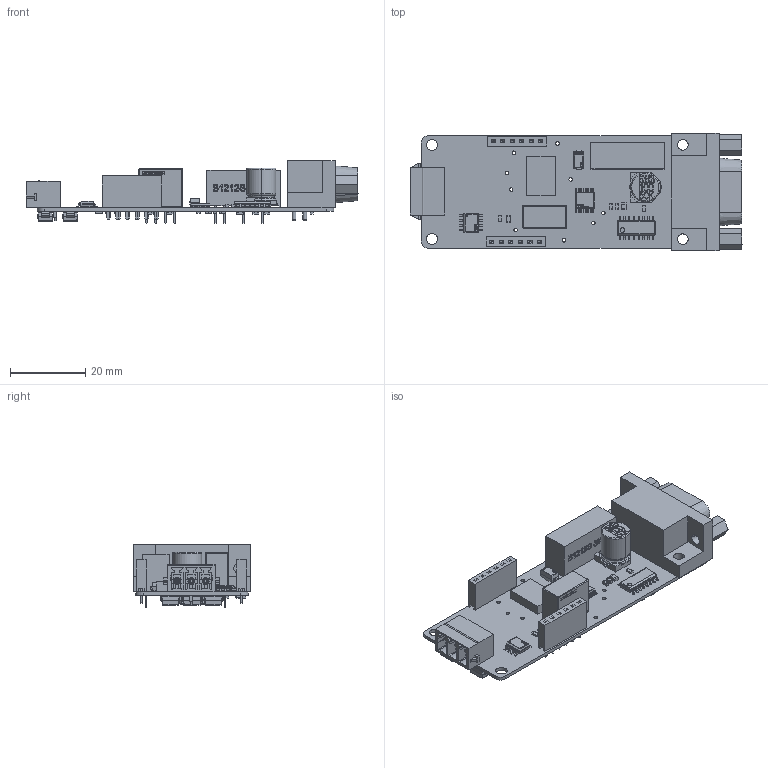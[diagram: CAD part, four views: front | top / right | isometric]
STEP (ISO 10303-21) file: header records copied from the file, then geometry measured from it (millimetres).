
FILE_DESCRIPTION(('Open CASCADE Model'),'2;1');
FILE_NAME('Open CASCADE Shape Model','2025-12-08T13:11:18',('Author'),( 'Open CASCADE'),'Open CASCADE STEP processor 7.5','Open CASCADE 7.5' ,'Unknown');
FILE_SCHEMA(('AUTOMOTIVE_DESIGN { 1 0 10303 214 1 1 1 1 }'));
Length unit declared in the file: millimetre
Products named in the file (136): Open CASCADE STEP translator 7.5 1; Open CASCADE STEP translator 7.5 2; Open CASCADE STEP translator 7.5 3; Open CASCADE STEP translator 7.5 4; Open CASCADE STEP translator 7.5 5; Open CASCADE STEP translator 7.5 6; Open CASCADE STEP translator 7.5 7; Open CASCADE STEP translator 7.5 8; Open CASCADE STEP translator 7.5 9; Open CASCADE STEP translator 7.5 10; Open CASCADE STEP translator 7.5 11; Open CASCADE STEP translator 7.5 12; Open CASCADE STEP translator 7.5 13; Open CASCADE STEP translator 7.5 14; Open CASCADE STEP translator 7.5 15; Open CASCADE STEP translator 7.5 16; Open CASCADE STEP translator 7.5 17; Open CASCADE STEP translator 7.5 18; Open CASCADE STEP translator 7.5 19; Open CASCADE STEP translator 7.5 20; Open CASCADE STEP translator 7.5 21; Open CASCADE STEP translator 7.5 22; Open CASCADE STEP translator 7.5 23; Open CASCADE STEP translator 7.5 24; Open CASCADE STEP translator 7.5 25; Open CASCADE STEP translator 7.5 26; Open CASCADE STEP translator 7.5 27; Open CASCADE STEP translator 7.5 28; Open CASCADE STEP translator 7.5 29; Open CASCADE STEP translator 7.5 30; Open CASCADE STEP translator 7.5 31; Open CASCADE STEP translator 7.5 32; Open CASCADE STEP translator 7.5 33; Open CASCADE STEP translator 7.5 34; Open CASCADE STEP translator 7.5 35; Open CASCADE STEP translator 7.5 36; Open CASCADE STEP translator 7.5 37; Open CASCADE STEP translator 7.5 38; Open CASCADE STEP translator 7.5 39; Open CASCADE STEP translator 7.5 40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
Bounding box: 88.45 x 31.31 x 16.65 mm (x, y, z)
Volume: 10467 mm3; surface area: 13954 mm2
Topology: 217 solids, 217 shells, 5240 faces, 13537 edges, 8638 vertices
Faces by surface type: plane 3425, bspline 870, cylinder 714, sphere 183, extrusion 24, torus 15, cone 9
Full cylindrical faces by diameter (mm): 0.275 x1, 0.559 x1, 0.599 x1, 0.804 x1, 0.95 x9, 1 x8, 1.02 x12, 1.04 x9, 1.4 x3, 1.8 x3, 3 x2
Entity records: 191103 total; most frequent: CARTESIAN_POINT 49925, ORIENTED_EDGE 26690, DIRECTION 21739, EDGE_CURVE 13345, VECTOR 10049, LINE 10025, VERTEX_POINT 8629, AXIS2_PLACEMENT_3D 5845
